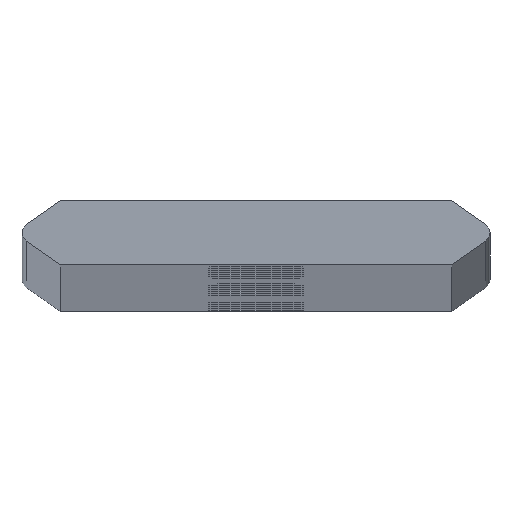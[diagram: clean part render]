
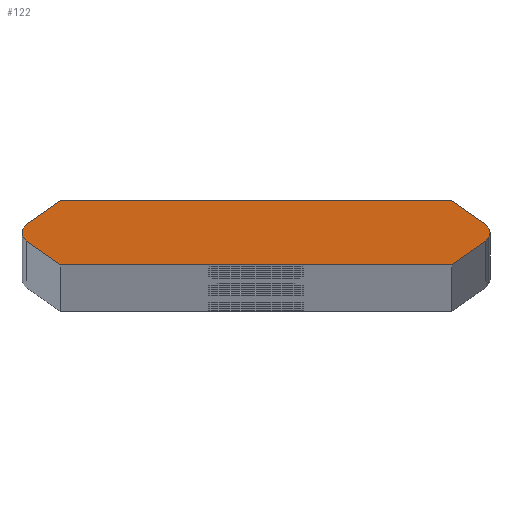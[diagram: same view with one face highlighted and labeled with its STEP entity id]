
A CAD part, top view. The second image highlights one B-rep face of the part: STEP entity #122.
In plain terms, the highlighted planar face has unit normal (0, 0, 1).
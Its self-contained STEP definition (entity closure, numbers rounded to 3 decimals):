
#122=ADVANCED_FACE('',(#226),#227,.T.);
#226=FACE_OUTER_BOUND('',#382,.T.);
#227=PLANE('',#383);
#382=EDGE_LOOP('',(#773,#774,#775,#776,#777,#778,#779,#780,#781,#782));
#383=AXIS2_PLACEMENT_3D('',#783,#784,#785);
#773=ORIENTED_EDGE('',*,*,#941,.T.);
#774=ORIENTED_EDGE('',*,*,#1078,.T.);
#775=ORIENTED_EDGE('',*,*,#1079,.F.);
#776=ORIENTED_EDGE('',*,*,#1080,.F.);
#777=ORIENTED_EDGE('',*,*,#1081,.F.);
#778=ORIENTED_EDGE('',*,*,#937,.T.);
#779=ORIENTED_EDGE('',*,*,#1082,.T.);
#780=ORIENTED_EDGE('',*,*,#1083,.F.);
#781=ORIENTED_EDGE('',*,*,#1084,.F.);
#782=ORIENTED_EDGE('',*,*,#1085,.F.);
#783=CARTESIAN_POINT('',(0.0,0.,1976.0));
#784=DIRECTION('',(0.0,0.0,1.0));
#785=DIRECTION('',(1.0,0.0,0.0));
#937=EDGE_CURVE('',#1101,#1098,#1102,.T.);
#941=EDGE_CURVE('',#1109,#1106,#1110,.T.);
#1078=EDGE_CURVE('',#1106,#1336,#1338,.T.);
#1079=EDGE_CURVE('',#1339,#1336,#1340,.T.);
#1080=EDGE_CURVE('',#1341,#1339,#1342,.T.);
#1081=EDGE_CURVE('',#1101,#1341,#1343,.T.);
#1082=EDGE_CURVE('',#1098,#1344,#1345,.T.);
#1083=EDGE_CURVE('',#1346,#1344,#1347,.T.);
#1084=EDGE_CURVE('',#1348,#1346,#1349,.T.);
#1085=EDGE_CURVE('',#1109,#1348,#1350,.T.);
#1098=VERTEX_POINT('',#1368);
#1101=VERTEX_POINT('',#1372);
#1102=CIRCLE('',#1373,0.76);
#1106=VERTEX_POINT('',#1378);
#1109=VERTEX_POINT('',#1382);
#1110=CIRCLE('',#1383,0.76);
#1336=VERTEX_POINT('',#1654);
#1338=CIRCLE('',#1657,0.76);
#1339=VERTEX_POINT('',#1658);
#1340=LINE('',#1659,#1660);
#1341=VERTEX_POINT('',#1661);
#1342=LINE('',#1662,#1663);
#1343=LINE('',#1664,#1665);
#1344=VERTEX_POINT('',#1666);
#1345=CIRCLE('',#1667,0.76);
#1346=VERTEX_POINT('',#1668);
#1347=LINE('',#1669,#1670);
#1348=VERTEX_POINT('',#1671);
#1349=LINE('',#1672,#1673);
#1350=LINE('',#1674,#1675);
#1368=CARTESIAN_POINT('',(17.34,0.,1976.0));
#1372=CARTESIAN_POINT('',(17.019,-0.62,1976.0));
#1373=AXIS2_PLACEMENT_3D('',#1705,#1706,#1707);
#1378=CARTESIAN_POINT('',(-17.34,0.,1976.0));
#1382=CARTESIAN_POINT('',(-17.019,0.62,1976.0));
#1383=AXIS2_PLACEMENT_3D('',#1713,#1714,#1715);
#1654=CARTESIAN_POINT('',(-17.019,-0.62,1976.0));
#1657=AXIS2_PLACEMENT_3D('',#2032,#2033,#2034);
#1658=CARTESIAN_POINT('',(-14.492,-2.39,1976.0));
#1659=CARTESIAN_POINT('',(-17.905,0.,1976.0));
#1660=VECTOR('',#2035,1.0);
#1661=CARTESIAN_POINT('',(14.492,-2.39,1976.0));
#1662=CARTESIAN_POINT('',(14.492,-2.39,1976.0));
#1663=VECTOR('',#2036,1.0);
#1664=CARTESIAN_POINT('',(17.905,0.0,1976.0));
#1665=VECTOR('',#2037,1.0);
#1666=CARTESIAN_POINT('',(17.019,0.62,1976.0));
#1667=AXIS2_PLACEMENT_3D('',#2038,#2039,#2040);
#1668=CARTESIAN_POINT('',(14.492,2.39,1976.0));
#1669=CARTESIAN_POINT('',(17.905,0.0,1976.0));
#1670=VECTOR('',#2041,1.0);
#1671=CARTESIAN_POINT('',(-14.492,2.39,1976.0));
#1672=CARTESIAN_POINT('',(-14.492,2.39,1976.0));
#1673=VECTOR('',#2042,1.0);
#1674=CARTESIAN_POINT('',(-17.905,0.,1976.0));
#1675=VECTOR('',#2043,1.0);
#1705=CARTESIAN_POINT('',(16.58,0.0,1976.0));
#1706=DIRECTION('',(0.0,0.0,1.0));
#1707=DIRECTION('',(1.0,0.0,0.0));
#1713=CARTESIAN_POINT('',(-16.58,0.,1976.0));
#1714=DIRECTION('',(0.0,0.0,1.0));
#1715=DIRECTION('',(-1.0,0.,0.0));
#2032=CARTESIAN_POINT('',(-16.58,0.,1976.0));
#2033=DIRECTION('',(0.0,0.0,1.0));
#2034=DIRECTION('',(-1.0,0.,0.0));
#2035=DIRECTION('',(-0.819,0.574,0.0));
#2036=DIRECTION('',(-1.0,0.,0.0));
#2037=DIRECTION('',(-0.819,-0.574,0.0));
#2038=CARTESIAN_POINT('',(16.58,0.0,1976.0));
#2039=DIRECTION('',(0.0,0.0,1.0));
#2040=DIRECTION('',(1.0,0.0,0.0));
#2041=DIRECTION('',(0.819,-0.574,0.0));
#2042=DIRECTION('',(1.0,0.,0.0));
#2043=DIRECTION('',(0.819,0.574,0.0));
